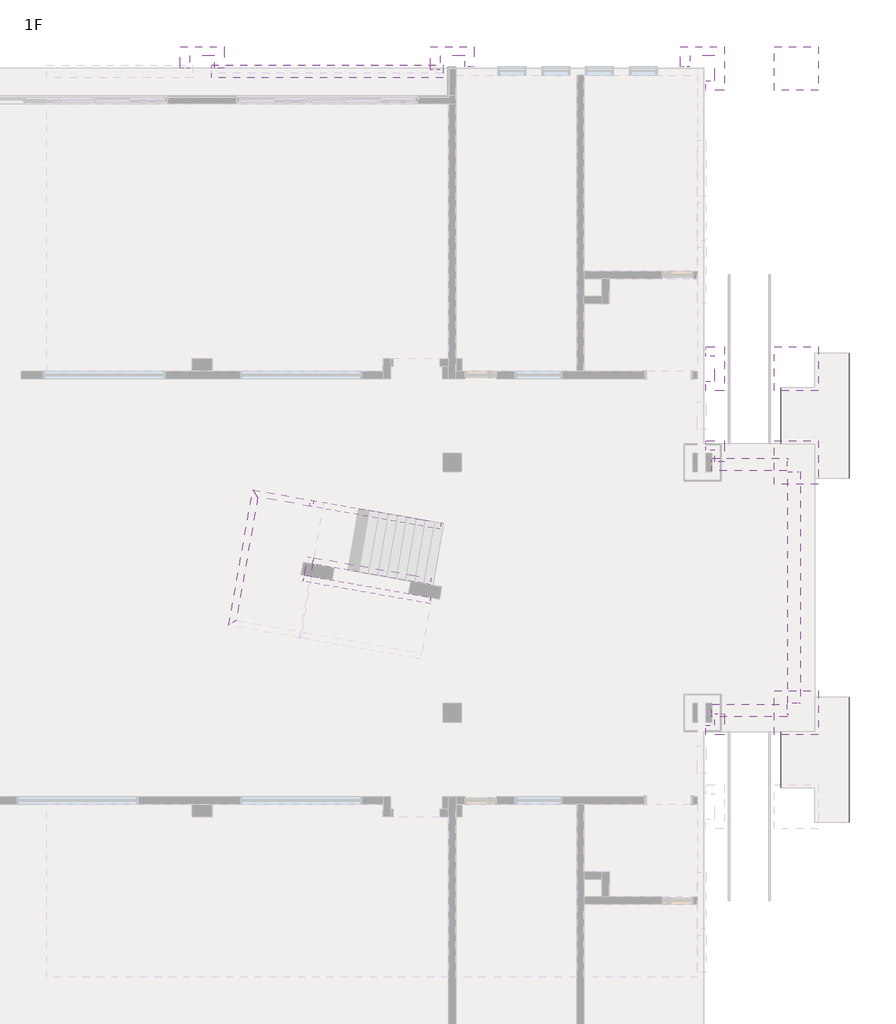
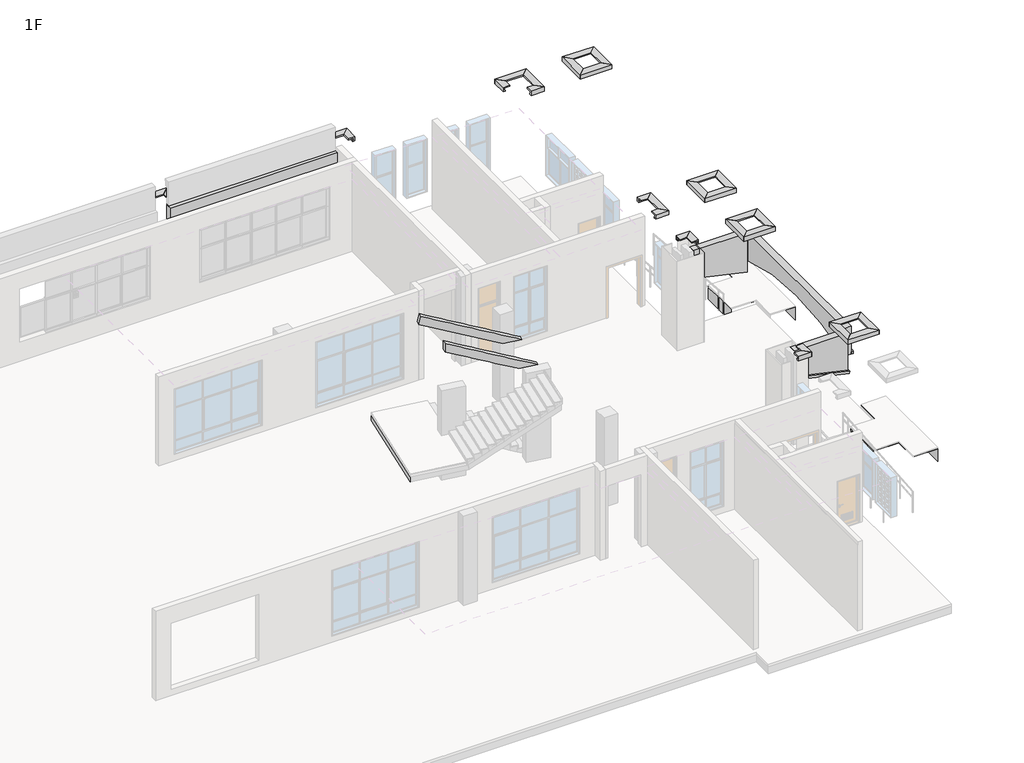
# One storey, part 16 of 16: 16 proxies, 6 members.
"""IFC4 building model written with IfcOpenShell, lengths in millimetres."""

from ifc_helpers import new_model, si_unit, frame, origin, place, context, project, spatial, polyline, outline, extrude, faceted_brep, triangles, transform, mapped, element, save
from components import generic_models_8d5e0f0c, generic_models_1d46b465, generic_models_00445dfb

model = new_model("IFC4")

# Units and contexts
model_context = context("Model", 3, world=origin())
ifc_project = project(units=[si_unit("LENGTHUNIT", "METRE", prefix="MILLI")], contexts=[model_context])

# Site, building, storey
site = spatial("IfcSite", under=ifc_project)
building = spatial("IfcBuilding", under=site)
storey = spatial("IfcBuildingStorey", under=building, Name="1F", Elevation=0.0)

# Proxies
placement = place(None, origin())
element("IfcBuildingElementProxy", 1, Name="Building Element Proxy", at=placement, inside=storey, context=model_context, shape_type="Tessellation", body=[
    triangles([(85499.9997803, 10200.6041107, 149.8404724), (85499.9997803, 10200.6041107, -450.0000034), (85499.9997803, 12000.2989105, 149.8404724), (85499.9997803, 12000.2989105, -450.0000034)], [[1, 4, 2], [1, 3, 4]], closed=False),
    triangles([(87699.9957275, 13100.3096741, 149.8404724), (87699.9957275, 13100.3096741, -450.0000034), (87699.9957275, 9100.3544083, 149.8404724), (87699.9957275, 9100.3544083, -450.0000034)], [[1, 4, 2], [1, 3, 4]], closed=False),
    triangles([(85499.9997803, 12000.2989105, 149.8404724), (85499.9997803, 12000.2989105, -450.0000034), (85499.9997803, 10200.6041107, 149.8404724), (85499.9997803, 10200.6041107, -450.0000034)], [[1, 4, 2], [1, 3, 4]], closed=False),
    triangles([(87699.9957275, 9100.3544083, 149.8404724), (87699.9957275, 9100.3544083, -450.0000034), (87699.9957275, 13100.3096741, 149.8404724), (87699.9957275, 13100.3096741, -450.0000034)], [[1, 4, 2], [1, 3, 4]], closed=False),
    triangles([(87699.9957275, 9100.3544083, 149.8404724), (87699.9957275, 13100.3096741, 149.8404724), (86599.9977539, 13100.3096741, 149.8404724), (86599.9977539, 12000.2989105, 149.8404724), (85499.9997803, 12000.2989105, 149.8404724), (85499.9997803, 10200.6041107, 149.8404724), (86599.9977539, 10200.6041107, 149.8404724), (86599.9977539, 9100.3544083, 149.8404724)], [[6, 7, 5], [4, 5, 7], [7, 2, 4], [1, 2, 7], [3, 4, 2], [7, 8, 1]], closed=False),
])
element("IfcBuildingElementProxy", 2, Name="Building Element Proxy", at=placement, inside=storey, context=model_context, shape_type="Tessellation", body=[
    triangles([(87699.9957275, 24099.6452637, 149.8404724), (87699.9957275, 24099.6452637, -450.0000034), (87699.9957275, 20099.6894165, 149.8404724), (87699.9957275, 20099.6894165, -450.0000034)], [[1, 4, 2], [1, 3, 4]], closed=False),
    triangles([(85499.9997803, 21199.7013428, 149.8404724), (85499.9997803, 21199.7013428, -450.0000034), (85499.9997803, 22999.3961426, 149.8404724), (85499.9997803, 22999.3961426, -450.0000034)], [[1, 4, 2], [1, 3, 4]], closed=False),
    triangles([(87699.9957275, 20099.6894165, 149.8404724), (87699.9957275, 20099.6894165, -450.0000034), (87699.9957275, 24099.6452637, 149.8404724), (87699.9957275, 24099.6452637, -450.0000034)], [[1, 4, 2], [1, 3, 4]], closed=False),
    triangles([(85499.9997803, 22999.3961426, 149.8404724), (85499.9997803, 22999.3961426, -450.0000034), (85499.9997803, 21199.7013428, 149.8404724), (85499.9997803, 21199.7013428, -450.0000034)], [[1, 4, 2], [1, 3, 4]], closed=False),
    triangles([(87699.9957275, 24099.6452637, 149.8404724), (86599.9977539, 24099.6452637, 149.8404724), (86599.9977539, 22999.3961426, 149.8404724), (85499.9997803, 22999.3961426, 149.8404724), (85499.9997803, 21199.7013428, 149.8404724), (86599.9977539, 21199.7013428, 149.8404724), (86599.9977539, 20099.6894165, 149.8404724), (87699.9957275, 20099.6894165, 149.8404724)], [[5, 6, 4], [3, 4, 6], [6, 8, 3], [8, 1, 3], [2, 3, 1], [6, 7, 8]], closed=False),
])
generic_models_shape = generic_models_8d5e0f0c(model_context)
element("IfcBuildingElementProxy", 3, Name="走廊板 : h=300mm", ObjectType="走廊板 : h=300mm", at=placement, inside=storey, context=model_context, shape_type="MappedRepresentation", body=[
    mapped(generic_models_shape, transform((85700.0, 20483.3045364, 4200.0), x_axis=(-1.0, 0.0, 0.0), y_axis=(0.0, -1.0, 0.0), z_axis=(0.0, 0.0, 1.0))),
])
generic_models_2_shape = generic_models_1d46b465(model_context)
element("IfcBuildingElementProxy", 4, Name="走廊板 : h=300mm", ObjectType="走廊板 : h=300mm", at=placement, inside=storey, context=model_context, shape_type="MappedRepresentation", body=[
    mapped(generic_models_2_shape, transform((85700.0, 12716.6954636, 4200.0), x_axis=(-1.0, 0.0, 0.0), y_axis=(0.0, -1.0, 0.0), z_axis=(0.0, 0.0, 1.0))),
])
generic_models_3_shape = generic_models_00445dfb(model_context)
element("IfcBuildingElementProxy", 5, Name="走廊板 : h=300mm", ObjectType="走廊板 : h=300mm", at=placement, inside=storey, context=model_context, shape_type="MappedRepresentation", body=[
    mapped(generic_models_3_shape, transform((67300.0, 33050.0, 4200.0), x_axis=(1.0, 0.0, 0.0), y_axis=(0.0, 1.0, 0.0), z_axis=(0.0, 0.0, 1.0))),
])
element("IfcBuildingElementProxy", 6, Name="走廊板 : h=300mm", ObjectType="走廊板 : h=300mm", at=placement, inside=storey, context=model_context, shape_type="MappedRepresentation", body=[
    mapped(generic_models_3_shape, transform((85883.0000012, 20300.0, 4200.0), x_axis=(0.0, -1.0, 0.0), y_axis=(1.0, 0.0, 0.0), z_axis=(0.0, 0.0, 1.0))),
])
element("IfcBuildingElementProxy", 7, Name="QS1", ObjectType="QS1", at=placement, inside=storey, context=model_context, shape_type="Brep", body=[
    faceted_brep([(66300.0000009, 33200.0, 4200.0), (66400.0000009, 33200.0, 4200.0), (66400.0000009, 33200.0, 4250.0), (66350.0000009, 33200.0, 4250.0), (66350.0000009, 33200.0, 4350.0), (66600.0000009, 33200.0, 4350.0), (66600.0000009, 33200.0, 4400.0), (66300.0000009, 33200.0, 4400.0), (66300.0000009, 33899.6402082, 4200.0), (66300.0000009, 33899.6402082, 4400.0), (66600.0000009, 33599.6402082, 4400.0), (66600.0000009, 33599.6402082, 4350.0), (66350.0000009, 33849.6402082, 4350.0), (66350.0000009, 33849.6402082, 4250.0), (66400.0000009, 33799.6402082, 4250.0), (66400.0000009, 33799.6402082, 4200.0)], [[[0, 1, 2, 3, 4, 5, 6, 7]], [[8, 9, 10, 11, 12, 13, 14, 15]], [[1, 0, 8, 15]], [[2, 1, 15, 14]], [[3, 2, 14, 13]], [[4, 3, 13, 12]], [[5, 4, 12, 11]], [[6, 5, 11, 10]], [[7, 6, 10, 9]], [[0, 7, 9, 8]]]),
    faceted_brep([(66300.0000009, 33899.6402082, 4200.0), (66400.0000009, 33799.6402082, 4200.0), (66400.0000009, 33799.6402082, 4250.0), (66350.0000009, 33849.6402082, 4250.0), (66350.0000009, 33849.6402082, 4350.0), (66600.0000009, 33599.6402082, 4350.0), (66600.0000009, 33599.6402082, 4400.0), (66300.0000009, 33899.6402082, 4400.0), (67699.9999999, 33899.6402082, 4200.0), (67699.9999999, 33899.6402082, 4400.0), (67399.9999999, 33599.6402082, 4400.0), (67399.9999999, 33599.6402082, 4350.0), (67649.9999999, 33849.6402082, 4350.0), (67649.9999999, 33849.6402082, 4250.0), (67599.9999999, 33799.6402082, 4250.0), (67599.9999999, 33799.6402082, 4200.0)], [[[0, 1, 2, 3, 4, 5, 6, 7]], [[8, 9, 10, 11, 12, 13, 14, 15]], [[1, 0, 8, 15]], [[2, 1, 15, 14]], [[3, 2, 14, 13]], [[4, 3, 13, 12]], [[5, 4, 12, 11]], [[6, 5, 11, 10]], [[7, 6, 10, 9]], [[0, 7, 9, 8]]]),
    faceted_brep([(67699.9999999, 33899.6402082, 4200.0), (67599.9999999, 33799.6402082, 4200.0), (67599.9999999, 33799.6402082, 4250.0), (67649.9999999, 33849.6402082, 4250.0), (67649.9999999, 33849.6402082, 4350.0), (67399.9999999, 33599.6402082, 4350.0), (67399.9999999, 33599.6402082, 4400.0), (67699.9999999, 33899.6402082, 4400.0), (67699.9999999, 33199.844957, 4200.0), (67699.9999999, 33199.844957, 4400.0), (67399.9999999, 33199.844957, 4400.0), (67399.9999999, 33199.844957, 4350.0), (67649.9999999, 33199.844957, 4350.0), (67649.9999999, 33199.844957, 4250.0), (67599.9999999, 33199.844957, 4250.0), (67599.9999999, 33199.844957, 4200.0)], [[[0, 1, 2, 3, 4, 5, 6, 7]], [[8, 9, 10, 11, 12, 13, 14, 15]], [[1, 0, 8, 15]], [[2, 1, 15, 14]], [[3, 2, 14, 13]], [[4, 3, 13, 12]], [[5, 4, 12, 11]], [[6, 5, 11, 10]], [[7, 6, 10, 9]], [[0, 7, 9, 8]]]),
])
element("IfcBuildingElementProxy", 8, Name="QS1", ObjectType="QS1", at=placement, inside=storey, context=model_context, shape_type="Brep", body=[
    faceted_brep([(74300.0000001, 33899.6402082, 4200.0), (74300.0000001, 33899.6402082, 4400.0), (74600.0000001, 33599.6402082, 4400.0), (74600.0000001, 33599.6402082, 4350.0), (74350.0000001, 33849.6402082, 4350.0), (74350.0000001, 33849.6402082, 4250.0), (74400.0000001, 33799.6402082, 4250.0), (74400.0000001, 33799.6402082, 4200.0), (74300.0000001, 33159.6402082, 4200.0), (74400.0000001, 33159.6402082, 4200.0), (74400.0000001, 33159.6402082, 4250.0), (74350.0000001, 33159.6402082, 4250.0), (74350.0000001, 33159.6402082, 4350.0), (74600.0000001, 33159.6402082, 4350.0), (74600.0000001, 33159.6402082, 4400.0), (74300.0000001, 33159.6402082, 4400.0)], [[[0, 1, 2, 3, 4, 5, 6, 7]], [[8, 9, 10, 11, 12, 13, 14, 15]], [[0, 7, 9, 8]], [[7, 6, 10, 9]], [[6, 5, 11, 10]], [[5, 4, 12, 11]], [[4, 3, 13, 12]], [[3, 2, 14, 13]], [[2, 1, 15, 14]], [[1, 0, 8, 15]]]),
    faceted_brep([(75699.9999991, 33899.6402082, 4200.0), (75699.9999991, 33899.6402082, 4400.0), (75399.9999991, 33599.6402082, 4400.0), (75399.9999991, 33599.6402082, 4350.0), (75649.9999991, 33849.6402082, 4350.0), (75649.9999991, 33849.6402082, 4250.0), (75599.9999991, 33799.6402082, 4250.0), (75599.9999991, 33799.6402082, 4200.0), (74300.0000001, 33899.6402082, 4200.0), (74400.0000001, 33799.6402082, 4200.0), (74400.0000001, 33799.6402082, 4250.0), (74350.0000001, 33849.6402082, 4250.0), (74350.0000001, 33849.6402082, 4350.0), (74600.0000001, 33599.6402082, 4350.0), (74600.0000001, 33599.6402082, 4400.0), (74300.0000001, 33899.6402082, 4400.0)], [[[0, 1, 2, 3, 4, 5, 6, 7]], [[8, 9, 10, 11, 12, 13, 14, 15]], [[0, 7, 9, 8]], [[7, 6, 10, 9]], [[6, 5, 11, 10]], [[5, 4, 12, 11]], [[4, 3, 13, 12]], [[3, 2, 14, 13]], [[2, 1, 15, 14]], [[1, 0, 8, 15]]]),
    faceted_brep([(75699.9999991, 33252.6954639, 4200.0), (75699.9999991, 33252.6954639, 4400.0), (75399.9999991, 33252.6954639, 4400.0), (75399.9999991, 33252.6954639, 4350.0), (75649.9999991, 33252.6954639, 4350.0), (75649.9999991, 33252.6954639, 4250.0), (75599.9999991, 33252.6954639, 4250.0), (75599.9999991, 33252.6954639, 4200.0), (75699.9999991, 33899.6402082, 4200.0), (75599.9999991, 33799.6402082, 4200.0), (75599.9999991, 33799.6402082, 4250.0), (75649.9999991, 33849.6402082, 4250.0), (75649.9999991, 33849.6402082, 4350.0), (75399.9999991, 33599.6402082, 4350.0), (75399.9999991, 33599.6402082, 4400.0), (75699.9999991, 33899.6402082, 4400.0)], [[[0, 1, 2, 3, 4, 5, 6, 7]], [[8, 9, 10, 11, 12, 13, 14, 15]], [[0, 7, 9, 8]], [[7, 6, 10, 9]], [[6, 5, 11, 10]], [[5, 4, 12, 11]], [[4, 3, 13, 12]], [[3, 2, 14, 13]], [[2, 1, 15, 14]], [[1, 0, 8, 15]]]),
])
element("IfcBuildingElementProxy", 9, Name="QS1", ObjectType="QS1", at=placement, inside=storey, context=model_context, shape_type="Brep", body=[
    faceted_brep([(85300.0, 32499.3961574, 4200.0), (85300.0, 32499.3961574, 4400.0), (85600.0, 32799.3961574, 4400.0), (85600.0, 32799.3961574, 4350.0), (85350.0, 32549.3961574, 4350.0), (85350.0, 32549.3961574, 4250.0), (85400.0, 32599.3961574, 4250.0), (85400.0, 32599.3961574, 4200.0), (86700.0000001, 32499.3961574, 4200.0), (86600.0000001, 32599.3961574, 4200.0), (86600.0000001, 32599.3961574, 4250.0), (86650.0000001, 32549.3961574, 4250.0), (86650.0000001, 32549.3961574, 4350.0), (86400.0000001, 32799.3961574, 4350.0), (86400.0000001, 32799.3961574, 4400.0), (86700.0000001, 32499.3961574, 4400.0)], [[[0, 1, 2, 3, 4, 5, 6, 7]], [[8, 9, 10, 11, 12, 13, 14, 15]], [[0, 7, 9, 8]], [[7, 6, 10, 9]], [[6, 5, 11, 10]], [[5, 4, 12, 11]], [[4, 3, 13, 12]], [[3, 2, 14, 13]], [[2, 1, 15, 14]], [[1, 0, 8, 15]]]),
    faceted_brep([(86700.0000001, 32499.3961574, 4200.0), (86700.0000001, 32499.3961574, 4400.0), (86400.0000001, 32799.3961574, 4400.0), (86400.0000001, 32799.3961574, 4350.0), (86650.0000001, 32549.3961574, 4350.0), (86650.0000001, 32549.3961574, 4250.0), (86600.0000001, 32599.3961574, 4250.0), (86600.0000001, 32599.3961574, 4200.0), (86700.0000001, 33899.3961574, 4200.0), (86600.0000001, 33799.3961574, 4200.0), (86600.0000001, 33799.3961574, 4250.0), (86650.0000001, 33849.3961574, 4250.0), (86650.0000001, 33849.3961574, 4350.0), (86400.0000001, 33599.3961574, 4350.0), (86400.0000001, 33599.3961574, 4400.0), (86700.0000001, 33899.3961574, 4400.0)], [[[0, 1, 2, 3, 4, 5, 6, 7]], [[8, 9, 10, 11, 12, 13, 14, 15]], [[0, 7, 9, 8]], [[7, 6, 10, 9]], [[6, 5, 11, 10]], [[5, 4, 12, 11]], [[4, 3, 13, 12]], [[3, 2, 14, 13]], [[2, 1, 15, 14]], [[1, 0, 8, 15]]]),
    faceted_brep([(86700.0000001, 33899.3961574, 4200.0), (86700.0000001, 33899.3961574, 4400.0), (86400.0000001, 33599.3961574, 4400.0), (86400.0000001, 33599.3961574, 4350.0), (86650.0000001, 33849.3961574, 4350.0), (86650.0000001, 33849.3961574, 4250.0), (86600.0000001, 33799.3961574, 4250.0), (86600.0000001, 33799.3961574, 4200.0), (85300.0, 33899.3961574, 4200.0), (85400.0, 33799.3961574, 4200.0), (85400.0, 33799.3961574, 4250.0), (85350.0, 33849.3961574, 4250.0), (85350.0, 33849.3961574, 4350.0), (85600.0, 33599.3961574, 4350.0), (85600.0, 33599.3961574, 4400.0), (85300.0, 33899.3961574, 4400.0)], [[[0, 1, 2, 3, 4, 5, 6, 7]], [[8, 9, 10, 11, 12, 13, 14, 15]], [[0, 7, 9, 8]], [[7, 6, 10, 9]], [[6, 5, 11, 10]], [[5, 4, 12, 11]], [[4, 3, 13, 12]], [[3, 2, 14, 13]], [[2, 1, 15, 14]], [[1, 0, 8, 15]]]),
    faceted_brep([(85300.0, 33899.3961574, 4200.0), (85300.0, 33899.3961574, 4400.0), (85600.0, 33599.3961574, 4400.0), (85600.0, 33599.3961574, 4350.0), (85350.0, 33849.3961574, 4350.0), (85350.0, 33849.3961574, 4250.0), (85400.0, 33799.3961574, 4250.0), (85400.0, 33799.3961574, 4200.0), (85300.0, 32499.3961574, 4200.0), (85400.0, 32599.3961574, 4200.0), (85400.0, 32599.3961574, 4250.0), (85350.0, 32549.3961574, 4250.0), (85350.0, 32549.3961574, 4350.0), (85600.0, 32799.3961574, 4350.0), (85600.0, 32799.3961574, 4400.0), (85300.0, 32499.3961574, 4400.0)], [[[0, 1, 2, 3, 4, 5, 6, 7]], [[8, 9, 10, 11, 12, 13, 14, 15]], [[0, 7, 9, 8]], [[7, 6, 10, 9]], [[6, 5, 11, 10]], [[5, 4, 12, 11]], [[4, 3, 13, 12]], [[3, 2, 14, 13]], [[2, 1, 15, 14]], [[1, 0, 8, 15]]]),
])
element("IfcBuildingElementProxy", 10, Name="QS1", ObjectType="QS1", at=placement, inside=storey, context=model_context, shape_type="Brep", body=[
    faceted_brep([(86700.0000001, 22899.3961574, 4200.0), (86700.0000001, 22899.3961574, 4400.0), (86400.0000001, 23199.3961574, 4400.0), (86400.0000001, 23199.3961574, 4350.0), (86650.0000001, 22949.3961574, 4350.0), (86650.0000001, 22949.3961574, 4250.0), (86600.0000001, 22999.3961574, 4250.0), (86600.0000001, 22999.3961574, 4200.0), (86700.0000001, 24299.3961574, 4200.0), (86600.0000001, 24199.3961574, 4200.0), (86600.0000001, 24199.3961574, 4250.0), (86650.0000001, 24249.3961574, 4250.0), (86650.0000001, 24249.3961574, 4350.0), (86400.0000001, 23999.3961574, 4350.0), (86400.0000001, 23999.3961574, 4400.0), (86700.0000001, 24299.3961574, 4400.0)], [[[0, 1, 2, 3, 4, 5, 6, 7]], [[8, 9, 10, 11, 12, 13, 14, 15]], [[0, 7, 9, 8]], [[7, 6, 10, 9]], [[6, 5, 11, 10]], [[5, 4, 12, 11]], [[4, 3, 13, 12]], [[3, 2, 14, 13]], [[2, 1, 15, 14]], [[1, 0, 8, 15]]]),
    faceted_brep([(86700.0000001, 24299.3961574, 4200.0), (86700.0000001, 24299.3961574, 4400.0), (86400.0000001, 23999.3961574, 4400.0), (86400.0000001, 23999.3961574, 4350.0), (86650.0000001, 24249.3961574, 4350.0), (86650.0000001, 24249.3961574, 4250.0), (86600.0000001, 24199.3961574, 4250.0), (86600.0000001, 24199.3961574, 4200.0), (85300.0, 24299.3961574, 4200.0), (85400.0, 24199.3961574, 4200.0), (85400.0, 24199.3961574, 4250.0), (85350.0, 24249.3961574, 4250.0), (85350.0, 24249.3961574, 4350.0), (85600.0, 23999.3961574, 4350.0), (85600.0, 23999.3961574, 4400.0), (85300.0, 24299.3961574, 4400.0)], [[[0, 1, 2, 3, 4, 5, 6, 7]], [[8, 9, 10, 11, 12, 13, 14, 15]], [[0, 7, 9, 8]], [[7, 6, 10, 9]], [[6, 5, 11, 10]], [[5, 4, 12, 11]], [[4, 3, 13, 12]], [[3, 2, 14, 13]], [[2, 1, 15, 14]], [[1, 0, 8, 15]]]),
    faceted_brep([(85300.0, 22899.3961574, 4200.0), (85300.0, 22899.3961574, 4400.0), (85600.0, 23199.3961574, 4400.0), (85600.0, 23199.3961574, 4350.0), (85350.0, 22949.3961574, 4350.0), (85350.0, 22949.3961574, 4250.0), (85400.0, 22999.3961574, 4250.0), (85400.0, 22999.3961574, 4200.0), (86700.0000001, 22899.3961574, 4200.0), (86600.0000001, 22999.3961574, 4200.0), (86600.0000001, 22999.3961574, 4250.0), (86650.0000001, 22949.3961574, 4250.0), (86650.0000001, 22949.3961574, 4350.0), (86400.0000001, 23199.3961574, 4350.0), (86400.0000001, 23199.3961574, 4400.0), (86700.0000001, 22899.3961574, 4400.0)], [[[0, 1, 2, 3, 4, 5, 6, 7]], [[8, 9, 10, 11, 12, 13, 14, 15]], [[0, 7, 9, 8]], [[7, 6, 10, 9]], [[6, 5, 11, 10]], [[5, 4, 12, 11]], [[4, 3, 13, 12]], [[3, 2, 14, 13]], [[2, 1, 15, 14]], [[1, 0, 8, 15]]]),
    faceted_brep([(85300.0, 24299.3961574, 4200.0), (85300.0, 24299.3961574, 4400.0), (85600.0, 23999.3961574, 4400.0), (85600.0, 23999.3961574, 4350.0), (85350.0, 24249.3961574, 4350.0), (85350.0, 24249.3961574, 4250.0), (85400.0, 24199.3961574, 4250.0), (85400.0, 24199.3961574, 4200.0), (85300.0, 22899.3961574, 4200.0), (85400.0, 22999.3961574, 4200.0), (85400.0, 22999.3961574, 4250.0), (85350.0, 22949.3961574, 4250.0), (85350.0, 22949.3961574, 4350.0), (85600.0, 23199.3961574, 4350.0), (85600.0, 23199.3961574, 4400.0), (85300.0, 22899.3961574, 4400.0)], [[[0, 1, 2, 3, 4, 5, 6, 7]], [[8, 9, 10, 11, 12, 13, 14, 15]], [[0, 7, 9, 8]], [[7, 6, 10, 9]], [[6, 5, 11, 10]], [[5, 4, 12, 11]], [[4, 3, 13, 12]], [[3, 2, 14, 13]], [[2, 1, 15, 14]], [[1, 0, 8, 15]]]),
])
element("IfcBuildingElementProxy", 11, Name="QS1", ObjectType="QS1", at=placement, inside=storey, context=model_context, shape_type="Brep", body=[
    faceted_brep([(86700.0000001, 19899.7006935, 4200.0), (86700.0000001, 19899.7006935, 4400.0), (86400.0000001, 20199.7006935, 4400.0), (86400.0000001, 20199.7006935, 4350.0), (86650.0000001, 19949.7006935, 4350.0), (86650.0000001, 19949.7006935, 4250.0), (86600.0000001, 19999.7006935, 4250.0), (86600.0000001, 19999.7006935, 4200.0), (86700.0000001, 21299.7006935, 4200.0), (86600.0000001, 21199.7006935, 4200.0), (86600.0000001, 21199.7006935, 4250.0), (86650.0000001, 21249.7006935, 4250.0), (86650.0000001, 21249.7006935, 4350.0), (86400.0000001, 20999.7006935, 4350.0), (86400.0000001, 20999.7006935, 4400.0), (86700.0000001, 21299.7006935, 4400.0)], [[[0, 1, 2, 3, 4, 5, 6, 7]], [[8, 9, 10, 11, 12, 13, 14, 15]], [[0, 7, 9, 8]], [[7, 6, 10, 9]], [[6, 5, 11, 10]], [[5, 4, 12, 11]], [[4, 3, 13, 12]], [[3, 2, 14, 13]], [[2, 1, 15, 14]], [[1, 0, 8, 15]]]),
    faceted_brep([(86700.0000001, 21299.7006935, 4200.0), (86700.0000001, 21299.7006935, 4400.0), (86400.0000001, 20999.7006935, 4400.0), (86400.0000001, 20999.7006935, 4350.0), (86650.0000001, 21249.7006935, 4350.0), (86650.0000001, 21249.7006935, 4250.0), (86600.0000001, 21199.7006935, 4250.0), (86600.0000001, 21199.7006935, 4200.0), (85300.0, 21299.7006935, 4200.0), (85400.0, 21199.7006935, 4200.0), (85400.0, 21199.7006935, 4250.0), (85350.0, 21249.7006935, 4250.0), (85350.0, 21249.7006935, 4350.0), (85600.0, 20999.7006935, 4350.0), (85600.0, 20999.7006935, 4400.0), (85300.0, 21299.7006935, 4400.0)], [[[0, 1, 2, 3, 4, 5, 6, 7]], [[8, 9, 10, 11, 12, 13, 14, 15]], [[0, 7, 9, 8]], [[7, 6, 10, 9]], [[6, 5, 11, 10]], [[5, 4, 12, 11]], [[4, 3, 13, 12]], [[3, 2, 14, 13]], [[2, 1, 15, 14]], [[1, 0, 8, 15]]]),
    faceted_brep([(85300.0, 19899.7006935, 4200.0), (85300.0, 19899.7006935, 4400.0), (85600.0, 20199.7006935, 4400.0), (85600.0, 20199.7006935, 4350.0), (85350.0, 19949.7006935, 4350.0), (85350.0, 19949.7006935, 4250.0), (85400.0, 19999.7006935, 4250.0), (85400.0, 19999.7006935, 4200.0), (86700.0000001, 19899.7006935, 4200.0), (86600.0000001, 19999.7006935, 4200.0), (86600.0000001, 19999.7006935, 4250.0), (86650.0000001, 19949.7006935, 4250.0), (86650.0000001, 19949.7006935, 4350.0), (86400.0000001, 20199.7006935, 4350.0), (86400.0000001, 20199.7006935, 4400.0), (86700.0000001, 19899.7006935, 4400.0)], [[[0, 1, 2, 3, 4, 5, 6, 7]], [[8, 9, 10, 11, 12, 13, 14, 15]], [[0, 7, 9, 8]], [[7, 6, 10, 9]], [[6, 5, 11, 10]], [[5, 4, 12, 11]], [[4, 3, 13, 12]], [[3, 2, 14, 13]], [[2, 1, 15, 14]], [[1, 0, 8, 15]]]),
    faceted_brep([(85300.0, 21299.7006935, 4200.0), (85300.0, 21299.7006935, 4400.0), (85600.0, 20999.7006935, 4400.0), (85600.0, 20999.7006935, 4350.0), (85350.0, 21249.7006935, 4350.0), (85350.0, 21249.7006935, 4250.0), (85400.0, 21199.7006935, 4250.0), (85400.0, 21199.7006935, 4200.0), (85300.0, 19899.7006935, 4200.0), (85400.0, 19999.7006935, 4200.0), (85400.0, 19999.7006935, 4250.0), (85350.0, 19949.7006935, 4250.0), (85350.0, 19949.7006935, 4350.0), (85600.0, 20199.7006935, 4350.0), (85600.0, 20199.7006935, 4400.0), (85300.0, 19899.7006935, 4400.0)], [[[0, 1, 2, 3, 4, 5, 6, 7]], [[8, 9, 10, 11, 12, 13, 14, 15]], [[0, 7, 9, 8]], [[7, 6, 10, 9]], [[6, 5, 11, 10]], [[5, 4, 12, 11]], [[4, 3, 13, 12]], [[3, 2, 14, 13]], [[2, 1, 15, 14]], [[1, 0, 8, 15]]]),
])
element("IfcBuildingElementProxy", 12, Name="QS1", ObjectType="QS1", at=placement, inside=storey, context=model_context, shape_type="Brep", body=[
    faceted_brep([(82299.9999999, 33899.6954638, 4200.0), (82299.9999999, 33899.6954638, 4400.0), (82599.9999999, 33599.6954638, 4400.0), (82599.9999999, 33599.6954638, 4350.0), (82349.9999999, 33849.6954638, 4350.0), (82349.9999999, 33849.6954638, 4250.0), (82399.9999999, 33799.6954638, 4250.0), (82399.9999999, 33799.6954638, 4200.0), (82299.9999999, 33252.6954639, 4200.0), (82399.9999999, 33252.6954639, 4200.0), (82399.9999999, 33252.6954639, 4250.0), (82349.9999999, 33252.6954639, 4250.0), (82349.9999999, 33252.6954639, 4350.0), (82599.9999999, 33252.6954639, 4350.0), (82599.9999999, 33252.6954639, 4400.0), (82299.9999999, 33252.6954639, 4400.0)], [[[0, 1, 2, 3, 4, 5, 6, 7]], [[8, 9, 10, 11, 12, 13, 14, 15]], [[0, 7, 9, 8]], [[7, 6, 10, 9]], [[6, 5, 11, 10]], [[5, 4, 12, 11]], [[4, 3, 13, 12]], [[3, 2, 14, 13]], [[2, 1, 15, 14]], [[1, 0, 8, 15]]]),
    faceted_brep([(83699.9999999, 33899.6954638, 4200.0), (83699.9999999, 33899.6954638, 4400.0), (83399.9999999, 33599.6954638, 4400.0), (83399.9999999, 33599.6954638, 4350.0), (83649.9999999, 33849.6954638, 4350.0), (83649.9999999, 33849.6954638, 4250.0), (83599.9999999, 33799.6954638, 4250.0), (83599.9999999, 33799.6954638, 4200.0), (82299.9999999, 33899.6954638, 4200.0), (82399.9999999, 33799.6954638, 4200.0), (82399.9999999, 33799.6954638, 4250.0), (82349.9999999, 33849.6954638, 4250.0), (82349.9999999, 33849.6954638, 4350.0), (82599.9999999, 33599.6954638, 4350.0), (82599.9999999, 33599.6954638, 4400.0), (82299.9999999, 33899.6954638, 4400.0)], [[[0, 1, 2, 3, 4, 5, 6, 7]], [[8, 9, 10, 11, 12, 13, 14, 15]], [[0, 7, 9, 8]], [[7, 6, 10, 9]], [[6, 5, 11, 10]], [[5, 4, 12, 11]], [[4, 3, 13, 12]], [[3, 2, 14, 13]], [[2, 1, 15, 14]], [[1, 0, 8, 15]]]),
    faceted_brep([(83699.9999999, 32499.6954638, 4200.0), (83699.9999999, 32499.6954638, 4400.0), (83399.9999999, 32799.6954638, 4400.0), (83399.9999999, 32799.6954638, 4350.0), (83649.9999999, 32549.6954638, 4350.0), (83649.9999999, 32549.6954638, 4250.0), (83599.9999999, 32599.6954638, 4250.0), (83599.9999999, 32599.6954638, 4200.0), (83699.9999999, 33899.6954638, 4200.0), (83599.9999999, 33799.6954638, 4200.0), (83599.9999999, 33799.6954638, 4250.0), (83649.9999999, 33849.6954638, 4250.0), (83649.9999999, 33849.6954638, 4350.0), (83399.9999999, 33599.6954638, 4350.0), (83399.9999999, 33599.6954638, 4400.0), (83699.9999999, 33899.6954638, 4400.0)], [[[0, 1, 2, 3, 4, 5, 6, 7]], [[8, 9, 10, 11, 12, 13, 14, 15]], [[0, 7, 9, 8]], [[7, 6, 10, 9]], [[6, 5, 11, 10]], [[5, 4, 12, 11]], [[4, 3, 13, 12]], [[3, 2, 14, 13]], [[2, 1, 15, 14]], [[1, 0, 8, 15]]]),
    faceted_brep([(83102.9999998, 32499.6954638, 4200.0), (83102.9999998, 32499.6954638, 4400.0), (83102.9999998, 32799.6954638, 4400.0), (83102.9999998, 32799.6954638, 4350.0), (83102.9999998, 32549.6954638, 4350.0), (83102.9999998, 32549.6954638, 4250.0), (83102.9999998, 32599.6954638, 4250.0), (83102.9999998, 32599.6954638, 4200.0), (83699.9999999, 32499.6954638, 4200.0), (83599.9999999, 32599.6954638, 4200.0), (83599.9999999, 32599.6954638, 4250.0), (83649.9999999, 32549.6954638, 4250.0), (83649.9999999, 32549.6954638, 4350.0), (83399.9999999, 32799.6954638, 4350.0), (83399.9999999, 32799.6954638, 4400.0), (83699.9999999, 32499.6954638, 4400.0)], [[[0, 1, 2, 3, 4, 5, 6, 7]], [[8, 9, 10, 11, 12, 13, 14, 15]], [[0, 7, 9, 8]], [[7, 6, 10, 9]], [[6, 5, 11, 10]], [[5, 4, 12, 11]], [[4, 3, 13, 12]], [[3, 2, 14, 13]], [[2, 1, 15, 14]], [[1, 0, 8, 15]]]),
])
element("IfcBuildingElementProxy", 13, Name="QS1", ObjectType="QS1", at=placement, inside=storey, context=model_context, shape_type="Brep", body=[
    faceted_brep([(83700.0000001, 22899.6954638, 4200.0), (83600.0000001, 22999.6954638, 4200.0), (83600.0000001, 22999.6954638, 4250.0), (83650.0000001, 22949.6954638, 4250.0), (83650.0000001, 22949.6954638, 4350.0), (83400.0000001, 23199.6954638, 4350.0), (83400.0000001, 23199.6954638, 4400.0), (83700.0000001, 22899.6954638, 4400.0), (83102.9999995, 22899.6954638, 4200.0), (83102.9999995, 22899.6954638, 4400.0), (83102.9999995, 23199.6954638, 4400.0), (83102.9999995, 23199.6954638, 4350.0), (83102.9999995, 22949.6954638, 4350.0), (83102.9999995, 22949.6954638, 4250.0), (83102.9999995, 22999.6954638, 4250.0), (83102.9999995, 22999.6954638, 4200.0)], [[[0, 1, 2, 3, 4, 5, 6, 7]], [[8, 9, 10, 11, 12, 13, 14, 15]], [[0, 7, 9, 8]], [[7, 6, 10, 9]], [[6, 5, 11, 10]], [[5, 4, 12, 11]], [[4, 3, 13, 12]], [[3, 2, 14, 13]], [[2, 1, 15, 14]], [[1, 0, 8, 15]]]),
    faceted_brep([(83700.0000001, 24299.6954638, 4200.0), (83600.0000001, 24199.6954638, 4200.0), (83600.0000001, 24199.6954638, 4250.0), (83650.0000001, 24249.6954638, 4250.0), (83650.0000001, 24249.6954638, 4350.0), (83400.0000001, 23999.6954638, 4350.0), (83400.0000001, 23999.6954638, 4400.0), (83700.0000001, 24299.6954638, 4400.0), (83700.0000001, 22899.6954638, 4200.0), (83700.0000001, 22899.6954638, 4400.0), (83400.0000001, 23199.6954638, 4400.0), (83400.0000001, 23199.6954638, 4350.0), (83650.0000001, 22949.6954638, 4350.0), (83650.0000001, 22949.6954638, 4250.0), (83600.0000001, 22999.6954638, 4250.0), (83600.0000001, 22999.6954638, 4200.0)], [[[0, 1, 2, 3, 4, 5, 6, 7]], [[8, 9, 10, 11, 12, 13, 14, 15]], [[0, 7, 9, 8]], [[7, 6, 10, 9]], [[6, 5, 11, 10]], [[5, 4, 12, 11]], [[4, 3, 13, 12]], [[3, 2, 14, 13]], [[2, 1, 15, 14]], [[1, 0, 8, 15]]]),
    faceted_brep([(83102.9999995, 24299.6954638, 4200.0), (83102.9999995, 24199.6954638, 4200.0), (83102.9999995, 24199.6954638, 4250.0), (83102.9999995, 24249.6954638, 4250.0), (83102.9999995, 24249.6954638, 4350.0), (83102.9999995, 23999.6954638, 4350.0), (83102.9999995, 23999.6954638, 4400.0), (83102.9999995, 24299.6954638, 4400.0), (83700.0000001, 24299.6954638, 4200.0), (83700.0000001, 24299.6954638, 4400.0), (83400.0000001, 23999.6954638, 4400.0), (83400.0000001, 23999.6954638, 4350.0), (83650.0000001, 24249.6954638, 4350.0), (83650.0000001, 24249.6954638, 4250.0), (83600.0000001, 24199.6954638, 4250.0), (83600.0000001, 24199.6954638, 4200.0)], [[[0, 1, 2, 3, 4, 5, 6, 7]], [[8, 9, 10, 11, 12, 13, 14, 15]], [[0, 7, 9, 8]], [[7, 6, 10, 9]], [[6, 5, 11, 10]], [[5, 4, 12, 11]], [[4, 3, 13, 12]], [[3, 2, 14, 13]], [[2, 1, 15, 14]], [[1, 0, 8, 15]]]),
])
element("IfcBuildingElementProxy", 14, Name="QS1", ObjectType="QS1", at=placement, inside=storey, context=model_context, shape_type="Brep", body=[
    faceted_brep([(83102.9999995, 21299.6902344, 4200.0), (83102.9999995, 21199.6902344, 4200.0), (83102.9999995, 21199.6902344, 4250.0), (83102.9999995, 21249.6902344, 4250.0), (83102.9999995, 21249.6902344, 4350.0), (83102.9999995, 20999.6902344, 4350.0), (83102.9999995, 20999.6902344, 4400.0), (83102.9999995, 21299.6902344, 4400.0), (83700.0000001, 21299.6902344, 4200.0), (83700.0000001, 21299.6902344, 4400.0), (83400.0000001, 20999.6902344, 4400.0), (83400.0000001, 20999.6902344, 4350.0), (83650.0000001, 21249.6902344, 4350.0), (83650.0000001, 21249.6902344, 4250.0), (83600.0000001, 21199.6902344, 4250.0), (83600.0000001, 21199.6902344, 4200.0)], [[[0, 1, 2, 3, 4, 5, 6, 7]], [[8, 9, 10, 11, 12, 13, 14, 15]], [[0, 7, 9, 8]], [[7, 6, 10, 9]], [[6, 5, 11, 10]], [[5, 4, 12, 11]], [[4, 3, 13, 12]], [[3, 2, 14, 13]], [[2, 1, 15, 14]], [[1, 0, 8, 15]]]),
    faceted_brep([(83700.0000001, 21299.6902344, 4200.0), (83600.0000001, 21199.6902344, 4200.0), (83600.0000001, 21199.6902344, 4250.0), (83650.0000001, 21249.6902344, 4250.0), (83650.0000001, 21249.6902344, 4350.0), (83400.0000001, 20999.6902344, 4350.0), (83400.0000001, 20999.6902344, 4400.0), (83700.0000001, 21299.6902344, 4400.0), (83700.0000001, 20632.7242304, 4200.0), (83700.0000001, 20632.7242304, 4400.0), (83400.0000001, 20632.7242304, 4400.0), (83400.0000001, 20632.7242304, 4350.0), (83650.0000001, 20632.7242304, 4350.0), (83650.0000001, 20632.7242304, 4250.0), (83600.0000001, 20632.7242304, 4250.0), (83600.0000001, 20632.7242304, 4200.0)], [[[0, 1, 2, 3, 4, 5, 6, 7]], [[8, 9, 10, 11, 12, 13, 14, 15]], [[0, 7, 9, 8]], [[7, 6, 10, 9]], [[6, 5, 11, 10]], [[5, 4, 12, 11]], [[4, 3, 13, 12]], [[3, 2, 14, 13]], [[2, 1, 15, 14]], [[1, 0, 8, 15]]]),
])
element("IfcBuildingElementProxy", 15, Name="QS1", ObjectType="QS1", at=placement, inside=storey, context=model_context, shape_type="Brep", body=[
    faceted_brep([(86700.0000001, 13300.2993065, 4200.0), (86600.0000001, 13200.2993065, 4200.0), (86600.0000001, 13200.2993065, 4250.0), (86650.0000001, 13250.2993065, 4250.0), (86650.0000001, 13250.2993065, 4350.0), (86400.0000001, 13000.2993065, 4350.0), (86400.0000001, 13000.2993065, 4400.0), (86700.0000001, 13300.2993065, 4400.0), (86700.0000001, 11900.2993065, 4200.0), (86700.0000001, 11900.2993065, 4400.0), (86400.0000001, 12200.2993065, 4400.0), (86400.0000001, 12200.2993065, 4350.0), (86650.0000001, 11950.2993065, 4350.0), (86650.0000001, 11950.2993065, 4250.0), (86600.0000001, 12000.2993065, 4250.0), (86600.0000001, 12000.2993065, 4200.0)], [[[0, 1, 2, 3, 4, 5, 6, 7]], [[8, 9, 10, 11, 12, 13, 14, 15]], [[1, 0, 8, 15]], [[2, 1, 15, 14]], [[3, 2, 14, 13]], [[4, 3, 13, 12]], [[5, 4, 12, 11]], [[6, 5, 11, 10]], [[7, 6, 10, 9]], [[0, 7, 9, 8]]]),
    faceted_brep([(86700.0000001, 11900.2993065, 4200.0), (86600.0000001, 12000.2993065, 4200.0), (86600.0000001, 12000.2993065, 4250.0), (86650.0000001, 11950.2993065, 4250.0), (86650.0000001, 11950.2993065, 4350.0), (86400.0000001, 12200.2993065, 4350.0), (86400.0000001, 12200.2993065, 4400.0), (86700.0000001, 11900.2993065, 4400.0), (85300.0, 11900.2993065, 4200.0), (85300.0, 11900.2993065, 4400.0), (85600.0, 12200.2993065, 4400.0), (85600.0, 12200.2993065, 4350.0), (85350.0, 11950.2993065, 4350.0), (85350.0, 11950.2993065, 4250.0), (85400.0, 12000.2993065, 4250.0), (85400.0, 12000.2993065, 4200.0)], [[[0, 1, 2, 3, 4, 5, 6, 7]], [[8, 9, 10, 11, 12, 13, 14, 15]], [[1, 0, 8, 15]], [[2, 1, 15, 14]], [[3, 2, 14, 13]], [[4, 3, 13, 12]], [[5, 4, 12, 11]], [[6, 5, 11, 10]], [[7, 6, 10, 9]], [[0, 7, 9, 8]]]),
    faceted_brep([(85300.0, 13300.2993065, 4200.0), (85400.0, 13200.2993065, 4200.0), (85400.0, 13200.2993065, 4250.0), (85350.0, 13250.2993065, 4250.0), (85350.0, 13250.2993065, 4350.0), (85600.0, 13000.2993065, 4350.0), (85600.0, 13000.2993065, 4400.0), (85300.0, 13300.2993065, 4400.0), (86700.0000001, 13300.2993065, 4200.0), (86700.0000001, 13300.2993065, 4400.0), (86400.0000001, 13000.2993065, 4400.0), (86400.0000001, 13000.2993065, 4350.0), (86650.0000001, 13250.2993065, 4350.0), (86650.0000001, 13250.2993065, 4250.0), (86600.0000001, 13200.2993065, 4250.0), (86600.0000001, 13200.2993065, 4200.0)], [[[0, 1, 2, 3, 4, 5, 6, 7]], [[8, 9, 10, 11, 12, 13, 14, 15]], [[1, 0, 8, 15]], [[2, 1, 15, 14]], [[3, 2, 14, 13]], [[4, 3, 13, 12]], [[5, 4, 12, 11]], [[6, 5, 11, 10]], [[7, 6, 10, 9]], [[0, 7, 9, 8]]]),
    faceted_brep([(85300.0, 11900.2993065, 4200.0), (85400.0, 12000.2993065, 4200.0), (85400.0, 12000.2993065, 4250.0), (85350.0, 11950.2993065, 4250.0), (85350.0, 11950.2993065, 4350.0), (85600.0, 12200.2993065, 4350.0), (85600.0, 12200.2993065, 4400.0), (85300.0, 11900.2993065, 4400.0), (85300.0, 13300.2993065, 4200.0), (85300.0, 13300.2993065, 4400.0), (85600.0, 13000.2993065, 4400.0), (85600.0, 13000.2993065, 4350.0), (85350.0, 13250.2993065, 4350.0), (85350.0, 13250.2993065, 4250.0), (85400.0, 13200.2993065, 4250.0), (85400.0, 13200.2993065, 4200.0)], [[[0, 1, 2, 3, 4, 5, 6, 7]], [[8, 9, 10, 11, 12, 13, 14, 15]], [[1, 0, 8, 15]], [[2, 1, 15, 14]], [[3, 2, 14, 13]], [[4, 3, 13, 12]], [[5, 4, 12, 11]], [[6, 5, 11, 10]], [[7, 6, 10, 9]], [[0, 7, 9, 8]]]),
])
element("IfcBuildingElementProxy", 16, Name="QS1", ObjectType="QS1", at=placement, inside=storey, context=model_context, shape_type="Brep", body=[
    faceted_brep([(83102.9999995, 11900.3097656, 4200.0), (83102.9999995, 11900.3097656, 4400.0), (83102.9999995, 12200.3097656, 4400.0), (83102.9999995, 12200.3097656, 4350.0), (83102.9999995, 11950.3097656, 4350.0), (83102.9999995, 11950.3097656, 4250.0), (83102.9999995, 12000.3097656, 4250.0), (83102.9999995, 12000.3097656, 4200.0), (83700.0000001, 11900.3097656, 4200.0), (83600.0000001, 12000.3097656, 4200.0), (83600.0000001, 12000.3097656, 4250.0), (83650.0000001, 11950.3097656, 4250.0), (83650.0000001, 11950.3097656, 4350.0), (83400.0000001, 12200.3097656, 4350.0), (83400.0000001, 12200.3097656, 4400.0), (83700.0000001, 11900.3097656, 4400.0)], [[[0, 1, 2, 3, 4, 5, 6, 7]], [[8, 9, 10, 11, 12, 13, 14, 15]], [[1, 0, 8, 15]], [[2, 1, 15, 14]], [[3, 2, 14, 13]], [[4, 3, 13, 12]], [[5, 4, 12, 11]], [[6, 5, 11, 10]], [[7, 6, 10, 9]], [[0, 7, 9, 8]]]),
    faceted_brep([(83700.0000001, 11900.3097656, 4200.0), (83700.0000001, 11900.3097656, 4400.0), (83400.0000001, 12200.3097656, 4400.0), (83400.0000001, 12200.3097656, 4350.0), (83650.0000001, 11950.3097656, 4350.0), (83650.0000001, 11950.3097656, 4250.0), (83600.0000001, 12000.3097656, 4250.0), (83600.0000001, 12000.3097656, 4200.0), (83700.0000001, 12567.2757696, 4200.0), (83600.0000001, 12567.2757696, 4200.0), (83600.0000001, 12567.2757696, 4250.0), (83650.0000001, 12567.2757696, 4250.0), (83650.0000001, 12567.2757696, 4350.0), (83400.0000001, 12567.2757696, 4350.0), (83400.0000001, 12567.2757696, 4400.0), (83700.0000001, 12567.2757696, 4400.0)], [[[0, 1, 2, 3, 4, 5, 6, 7]], [[8, 9, 10, 11, 12, 13, 14, 15]], [[1, 0, 8, 15]], [[2, 1, 15, 14]], [[3, 2, 14, 13]], [[4, 3, 13, 12]], [[5, 4, 12, 11]], [[6, 5, 11, 10]], [[7, 6, 10, 9]], [[0, 7, 9, 8]]]),
])

# Members
element("IfcMember", 17, at=placement, inside=storey, context=model_context, shape_type="Brep", body=[
    faceted_brep([(68778.7735015, 19497.7116486, 2070.0), (70521.8832243, 19190.3543741, 2070.0), (70556.6128599, 19387.3159247, 2070.0), (68616.5415864, 19729.4028347, 2070.0), (68778.7735015, 19497.7116486, 1720.0), (70440.5146733, 19204.7018451, 1720.0), (68616.5415864, 19729.4028347, 1720.0), (70475.2443088, 19401.6633957, 1720.0)], [[[0, 1, 2, 3]], [[1, 0, 4, 5]], [[5, 4, 6, 7]], [[7, 6, 3, 2]], [[2, 1, 5, 7]], [[0, 3, 6, 4]]]),
])
element("IfcMember", 18, at=placement, inside=storey, context=model_context, shape_type="SweptSolid", body=[
    extrude(outline(polyline([(68778.7735015, 19497.7116486), (68084.1807908, 15558.4806366), (67852.4896047, 15396.2487215), (68616.5415864, 19729.4028347), (68778.7735015, 19497.7116486)])), frame((0.0, 0.0, 1720.0), z_axis=(0.0, 0.0, 1.0), x_axis=(1.0, 0.0, 0.0)), (0.0, 0.0, 1.0), 350.0),
])
element("IfcMember", 19, ObjectType="踏步梁 - 200mm 宽度", at=placement, inside=storey, context=model_context, shape_type="Brep", body=[
    faceted_brep([(70233.1526058, 16804.2415038, 1955.0), (70267.8822413, 17001.2030544, 1955.0), (70267.8822413, 17001.2030544, 1720.0), (70233.1526058, 16804.2415038, 1720.0), (70575.7565756, 16946.9165026, 1720.0), (70541.0269401, 16749.954952, 1720.0), (70464.843792, 16966.4734189, 1720.0), (70494.3880245, 16961.2639735, 1720.0), (74305.5940287, 16289.245526, 4005.0), (74270.8643932, 16092.2839754, 4005.0), (74270.8643932, 16092.2839754, 3613.6881039), (74305.5940287, 16289.245526, 3613.6881039), (74039.6959354, 16336.1305339, 3870.0), (73744.2536095, 16388.2249872, 3720.0), (73448.8112836, 16440.3194405, 3570.0), (73153.3689577, 16492.4138938, 3420.0), (72857.9266318, 16544.5083471, 3270.0), (72562.4843059, 16596.6028004, 3120.0), (72267.04198, 16648.6972537, 2970.0), (71971.5996541, 16700.791707, 2820.0), (71676.1573282, 16752.8861603, 2670.0), (71380.7150023, 16804.9806136, 2520.0), (71085.2726763, 16857.0750669, 2370.0), (70789.8303504, 16909.1695202, 2220.0), (70494.3880245, 16961.2639735, 2070.0), (70464.843792, 16966.4734189, 2055.0), (70459.658389, 16764.3024229, 2070.0), (70755.1007149, 16712.2079696, 2220.0), (71050.5430408, 16660.1135163, 2370.0), (71345.9853667, 16608.019063, 2520.0), (71641.4276926, 16555.9246097, 2670.0), (71936.8700185, 16503.8301564, 2820.0), (72232.3123444, 16451.7357031, 2970.0), (72527.7546703, 16399.6412498, 3120.0), (72823.1969962, 16347.5467965, 3270.0), (73118.6393221, 16295.4523432, 3420.0), (73414.081648, 16243.3578899, 3570.0), (73709.5239739, 16191.2634366, 3720.0), (74004.9662999, 16139.1689833, 3870.0), (70789.8303504, 16909.1695202, 1828.6881039), (71085.2726763, 16857.0750669, 1978.6881039), (71380.7150023, 16804.9806136, 2128.6881039), (71676.1573282, 16752.8861603, 2278.6881039), (71971.5996541, 16700.791707, 2428.6881039), (72267.04198, 16648.6972537, 2578.6881039), (72562.4843059, 16596.6028004, 2728.6881039), (72857.9266318, 16544.5083471, 2878.6881039), (73153.3689577, 16492.4138938, 3028.6881039), (73448.8112836, 16440.3194405, 3178.6881039), (73744.2536095, 16388.2249872, 3328.6881039), (74039.6959354, 16336.1305339, 3478.6881039)], [[[0, 1, 2, 3]], [[4, 5, 3, 2, 6, 7]], [[8, 9, 10, 11]], [[9, 8, 12, 13, 14, 15, 16, 17, 18, 19, 20, 21, 22, 23, 24, 25, 1, 0, 26, 27, 28, 29, 30, 31, 32, 33, 34, 35, 36, 37, 38]], [[10, 9, 38, 37, 36, 35, 34, 33, 32, 31, 30, 29, 28, 27, 26, 0, 3, 5]], [[11, 10, 5, 4, 39, 40, 41, 42, 43, 44, 45, 46, 47, 48, 49, 50]], [[8, 11, 50, 49, 48, 47, 46, 45, 44, 43, 42, 41, 40, 39, 4, 7, 6, 2, 1, 25, 24, 23, 22, 21, 20, 19, 18, 17, 16, 15, 14, 13, 12]]]),
])
element("IfcMember", 20, ObjectType="踏步梁 - 200mm 宽度", at=placement, inside=storey, context=model_context, shape_type="Brep", body=[
    faceted_brep([(70372.071148, 17592.0877062, 2070.0), (70267.8822413, 17001.2030544, 2070.0), (70464.843792, 16966.4734189, 2070.0), (70534.303063, 17360.3965201, 2070.0), (70504.7588304, 17365.6059654, 2070.0), (70539.488466, 17562.567516, 2070.0), (70372.071148, 17592.0877062, 1720.0), (70267.8822413, 17001.2030544, 1720.0), (70569.0326986, 17557.3580707, 1720.0), (70534.303063, 17360.3965201, 1720.0), (70464.843792, 16966.4734189, 1720.0), (70569.0326986, 17557.3580707, 1920.0), (70534.303063, 17360.3965201, 1920.0), (70504.7588304, 17365.6059654, 1920.0), (70539.488466, 17562.567516, 1920.0)], [[[0, 1, 2, 3, 4, 5]], [[1, 0, 6, 7]], [[7, 6, 8, 9, 10]], [[2, 10, 9, 8, 11, 12, 3]], [[12, 13, 4, 3]], [[4, 13, 14, 5]], [[2, 1, 7, 10]], [[8, 6, 0, 5, 14, 11]], [[13, 12, 11, 14]]]),
])
element("IfcMember", 21, at=placement, inside=storey, context=model_context, shape_type="Brep", body=[
    faceted_brep([(74633.7169573, 18668.4124692, 4200.0), (74598.9873218, 18471.4509186, 4200.0), (73828.2533436, 18607.3521139, 4200.0), (73862.9829792, 18804.3136645, 4200.0), (70521.8832243, 19190.3543741, 6270.0), (70440.5146733, 19204.7018451, 5920.0), (74362.6334611, 18513.1264812, 4320.0), (74067.1911352, 18565.2209345, 4470.0), (73771.7488093, 18617.3153878, 4620.0), (73476.3064834, 18669.4098411, 4770.0), (73180.8641575, 18721.5042944, 4920.0), (72885.4218316, 18773.5987477, 5070.0), (72589.9795057, 18825.693201, 5220.0), (72294.5371797, 18877.7876543, 5370.0), (71999.0948538, 18929.8821076, 5520.0), (71703.6525279, 18981.9765609, 5670.0), (71408.210202, 19034.0710142, 5820.0), (71112.7678761, 19086.1654675, 5970.0), (70817.3255502, 19138.2599208, 6120.0), (70556.6128599, 19387.3159247, 6270.0), (70475.2443088, 19401.6633957, 5920.0), (70852.0551858, 19335.2214714, 5728.6881039), (71147.4975117, 19283.1270181, 5578.6881039), (71442.9398376, 19231.0325648, 5428.6881039), (71738.3821635, 19178.9381115, 5278.6881039), (72033.8244894, 19126.8436582, 5128.6881039), (72329.2668153, 19074.7492049, 4978.6881039), (72624.7091412, 19022.6547516, 4828.6881039), (72920.1514671, 18970.5602983, 4678.6881039), (73215.593793, 18918.465845, 4528.6881039), (73511.0361189, 18866.3713917, 4378.6881039), (73806.4784448, 18814.2769384, 4228.6881039), (70852.0551858, 19335.2214714, 6120.0), (71147.4975117, 19283.1270181, 5970.0), (71442.9398376, 19231.0325648, 5820.0), (71738.3821635, 19178.9381115, 5670.0), (72033.8244894, 19126.8436582, 5520.0), (72329.2668153, 19074.7492049, 5370.0), (72624.7091412, 19022.6547516, 5220.0), (72920.1514671, 18970.5602983, 5070.0), (73215.593793, 18918.465845, 4920.0), (73511.0361189, 18866.3713917, 4770.0), (73806.4784448, 18814.2769384, 4620.0), (74101.9207707, 18762.1824851, 4470.0), (74397.3630966, 18710.0880318, 4320.0)], [[[0, 1, 2, 3]], [[4, 5, 2, 1, 6, 7, 8, 9, 10, 11, 12, 13, 14, 15, 16, 17, 18]], [[4, 19, 20, 5]], [[5, 20, 21, 22, 23, 24, 25, 26, 27, 28, 29, 30, 31, 3, 2]], [[20, 19, 32, 33, 34, 35, 36, 37, 38, 39, 40, 41, 42, 43, 44, 0, 3, 31, 30, 29, 28, 27, 26, 25, 24, 23, 22, 21]], [[19, 4, 18, 17, 16, 15, 14, 13, 12, 11, 10, 9, 8, 7, 6, 1, 0, 44, 43, 42, 41, 40, 39, 38, 37, 36, 35, 34, 33, 32]]]),
])
element("IfcMember", 22, ObjectType="踏步梁 - 200mm 宽度", at=placement, inside=storey, context=model_context, shape_type="Brep", body=[
    faceted_brep([(74321.1502375, 16895.7585138, 4200.0), (74286.420602, 16698.7969632, 4200.0), (73515.6866238, 16834.6981585, 4200.0), (73550.4162594, 17031.6597091, 4200.0), (70569.0326986, 17557.3580707, 6105.0), (70534.303063, 17360.3965201, 6105.0), (70800.2011563, 17313.5115121, 5970.0), (71095.6434822, 17261.4170588, 5820.0), (71391.0858081, 17209.3226055, 5670.0), (71686.528134, 17157.2281522, 5520.0), (71981.9704599, 17105.1336989, 5370.0), (72277.4127859, 17053.0392456, 5220.0), (72572.8551118, 17000.9447923, 5070.0), (72868.2974377, 16948.850339, 4920.0), (73163.7397636, 16896.7558857, 4770.0), (73459.1820895, 16844.6614324, 4620.0), (73754.6244154, 16792.5669791, 4470.0), (74050.0667413, 16740.4725258, 4320.0), (74084.7963768, 16937.4340764, 4320.0), (73789.3540509, 16989.5285297, 4470.0), (73493.911725, 17041.622983, 4620.0), (73198.4693991, 17093.7174363, 4770.0), (72903.0270732, 17145.8118896, 4920.0), (72607.5847473, 17197.9063429, 5070.0), (72312.1424214, 17250.0007962, 5220.0), (72016.7000955, 17302.0952495, 5370.0), (71721.2577696, 17354.1897028, 5520.0), (71425.8154437, 17406.2841561, 5670.0), (71130.3731178, 17458.3786094, 5820.0), (70834.9307919, 17510.4730627, 5970.0), (70569.0326986, 17557.3580707, 5713.6881039), (70534.303063, 17360.3965201, 5713.6881039), (73459.1820895, 16844.6614324, 4228.6881039), (73163.7397636, 16896.7558857, 4378.6881039), (72868.2974377, 16948.850339, 4528.6881039), (72572.8551118, 17000.9447923, 4678.6881039), (72277.4127859, 17053.0392456, 4828.6881039), (71981.9704599, 17105.1336989, 4978.6881039), (71686.528134, 17157.2281522, 5128.6881039), (71391.0858081, 17209.3226055, 5278.6881039), (71095.6434822, 17261.4170588, 5428.6881039), (70800.2011563, 17313.5115121, 5578.6881039)], [[[0, 1, 2, 3]], [[4, 5, 6, 7, 8, 9, 10, 11, 12, 13, 14, 15, 16, 17, 1, 0, 18, 19, 20, 21, 22, 23, 24, 25, 26, 27, 28, 29]], [[30, 4, 29, 28, 27, 26, 25, 24, 23, 22, 21, 20, 19, 18, 0, 3]], [[31, 30, 3, 2, 32, 33, 34, 35, 36, 37, 38, 39, 40, 41]], [[5, 31, 41, 40, 39, 38, 37, 36, 35, 34, 33, 32, 2, 1, 17, 16, 15, 14, 13, 12, 11, 10, 9, 8, 7, 6]], [[5, 4, 30, 31]]]),
])

save(model, "model.ifc")
